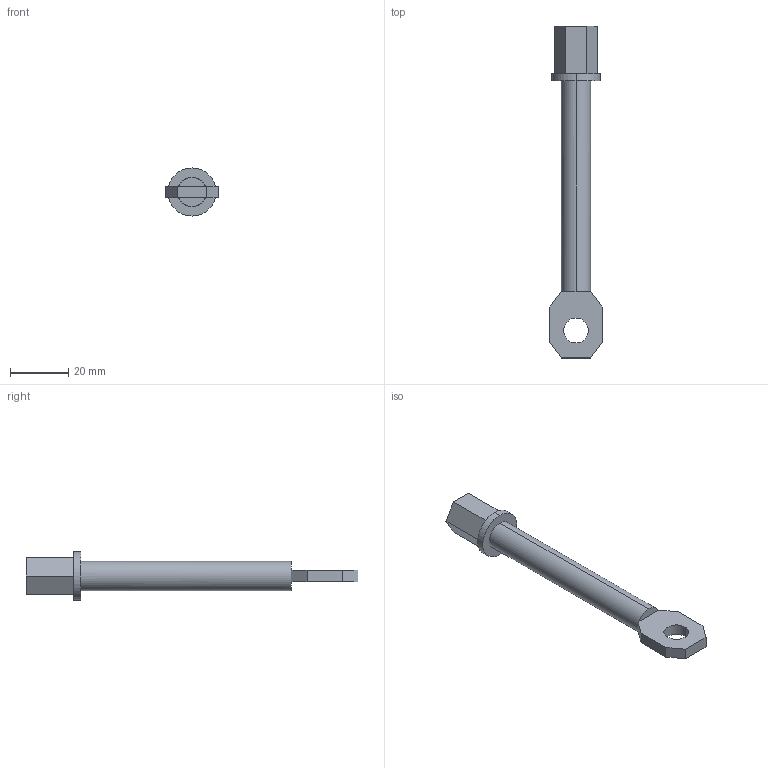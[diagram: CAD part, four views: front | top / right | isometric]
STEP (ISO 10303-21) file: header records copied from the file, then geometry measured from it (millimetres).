
FILE_DESCRIPTION (( 'STEP AP214' ), '1' );
FILE_NAME ('ÊÇÏ OptiMat D100, D160, D250 âûâîä äëèííûé.STEP', '2023-04-26T11:23:42', ( '' ), ( '' ), 'SwSTEP 2.0', 'SolidWorks 2018', '' );
FILE_SCHEMA (( 'AUTOMOTIVE_DESIGN' ));
Length unit declared in the file: millimetre
Products named in the file (1): ÊÇÏ OptiMat D100, D160, D250 âûâîä äëèííûé
Bounding box: 18 x 113.7 x 16.5 mm (x, y, z)
Volume: 9677.9 mm3; surface area: 4467.5 mm2
Topology: 1 solids, 1 shells, 30 faces, 72 edges, 46 vertices
Faces by surface type: plane 24, cylinder 6
Entity records: 904 total; most frequent: DIRECTION 152, CARTESIAN_POINT 149, ORIENTED_EDGE 144, EDGE_CURVE 72, VECTOR 54, LINE 54, AXIS2_PLACEMENT_3D 49, VERTEX_POINT 46
